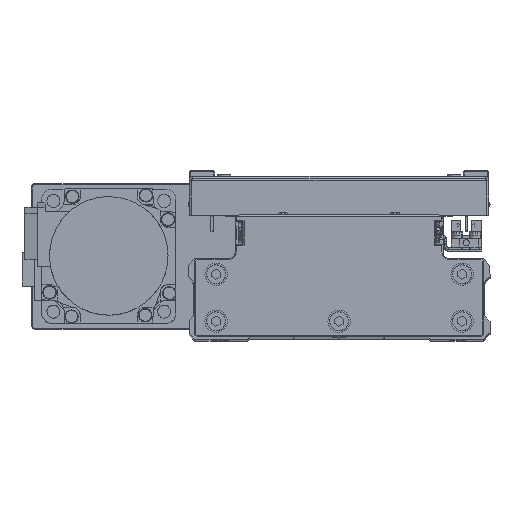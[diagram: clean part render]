
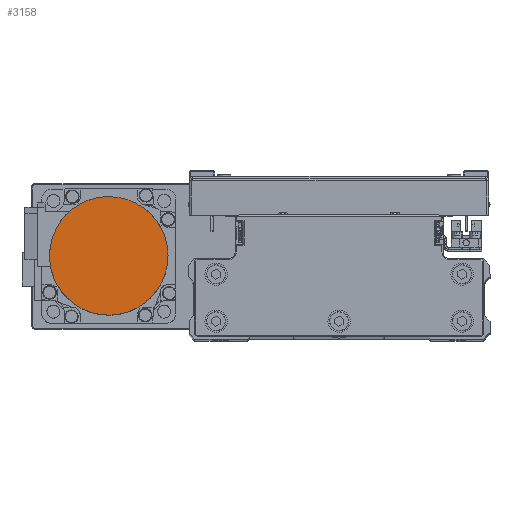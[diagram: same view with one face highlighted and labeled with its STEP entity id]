
A CAD part, top view. The second image highlights one B-rep face of the part: STEP entity #3158.
In plain terms, the highlighted planar face has unit normal (0, 0, 1) as drawn and (0, 0, -1) by its records, which use the part's own axes.
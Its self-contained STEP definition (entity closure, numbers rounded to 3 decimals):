
#622 = CARTESIAN_POINT ( 'NONE',  ( 21.07, 16.165, -109.7 ) ) ;
#829 = CARTESIAN_POINT ( 'NONE',  ( -8.539, 25.147, -109.7 ) ) ;
#1060 = CARTESIAN_POINT ( 'NONE',  ( -26.5, 0., -109.7 ) ) ;
#2698 = CARTESIAN_POINT ( 'NONE',  ( -26.329, -3.469, -109.7 ) ) ;
#2906 = CARTESIAN_POINT ( 'NONE',  ( -3.469, -26.329, -109.7 ) ) ;
#3127 = CARTESIAN_POINT ( 'NONE',  ( 23.819, -11.744, -109.7 ) ) ;
#3158 = ADVANCED_FACE ( 'NONE', ( #26294 ), #39755, .F. ) ;
#3933 = CARTESIAN_POINT ( 'NONE',  ( 25.147, 8.539, -109.7 ) ) ;
#4159 = CARTESIAN_POINT ( 'NONE',  ( -1.734, 26.5, -109.7 ) ) ;
#4367 = CARTESIAN_POINT ( 'NONE',  ( -25.652, 6.871, -109.7 ) ) ;
#6230 = CARTESIAN_POINT ( 'NONE',  ( -11.744, -23.819, -109.7 ) ) ;
#6433 = CARTESIAN_POINT ( 'NONE',  ( 19.965, -17.512, -109.7 ) ) ;
#7229 = CARTESIAN_POINT ( 'NONE',  ( 26.5, 1.734, -109.7 ) ) ;
#7465 = CARTESIAN_POINT ( 'NONE',  ( 6.871, 25.652, -109.7 ) ) ;
#7697 = CARTESIAN_POINT ( 'NONE',  ( -22.998, 13.28, -109.7 ) ) ;
#9494 = CARTESIAN_POINT ( 'NONE',  ( 0., 0., -109.7 ) ) ;
#9539 = CARTESIAN_POINT ( 'NONE',  ( -17.512, -19.965, -109.7 ) ) ;
#9766 = CARTESIAN_POINT ( 'NONE',  ( 13.28, -22.998, -109.7 ) ) ;
#10778 = CARTESIAN_POINT ( 'NONE',  ( 13.28, 22.998, -109.7 ) ) ;
#11007 = CARTESIAN_POINT ( 'NONE',  ( -17.512, 19.965, -109.7 ) ) ;
#12854 = CARTESIAN_POINT ( 'NONE',  ( -22.998, -13.28, -109.7 ) ) ;
#13080 = CARTESIAN_POINT ( 'NONE',  ( 6.871, -25.652, -109.7 ) ) ;
#13298 = CARTESIAN_POINT ( 'NONE',  ( 26.5, -1.734, -109.7 ) ) ;
#14110 = CARTESIAN_POINT ( 'NONE',  ( 19.965, 17.512, -109.7 ) ) ;
#14207 = EDGE_LOOP ( 'NONE', ( #23253, #38986 ) ) ;
#14315 = CARTESIAN_POINT ( 'NONE',  ( -11.744, 23.819, -109.7 ) ) ;
#15909 = AXIS2_PLACEMENT_3D ( 'NONE', #9494, #22999, #36459 ) ;
#16179 = CARTESIAN_POINT ( 'NONE',  ( -25.652, -6.871, -109.7 ) ) ;
#16377 = CARTESIAN_POINT ( 'NONE',  ( -1.734, -26.5, -109.7 ) ) ;
#16610 = CARTESIAN_POINT ( 'NONE',  ( 25.147, -8.539, -109.7 ) ) ;
#17430 = CARTESIAN_POINT ( 'NONE',  ( 23.819, 11.744, -109.7 ) ) ;
#17656 = CARTESIAN_POINT ( 'NONE',  ( -3.469, 26.329, -109.7 ) ) ;
#17860 = CARTESIAN_POINT ( 'NONE',  ( -26.329, 3.469, -109.7 ) ) ;
#18847 = VERTEX_POINT ( 'NONE', #23686 ) ;
#19494 = CARTESIAN_POINT ( 'NONE',  ( -26.5, 0., -109.7 ) ) ;
#19715 = CARTESIAN_POINT ( 'NONE',  ( -8.539, -25.147, -109.7 ) ) ;
#19918 = CARTESIAN_POINT ( 'NONE',  ( 21.07, -16.165, -109.7 ) ) ;
#20730 = CARTESIAN_POINT ( 'NONE',  ( 26.329, 3.469, -109.7 ) ) ;
#20803 = VERTEX_POINT ( 'NONE', #23941 ) ;
#20962 = CARTESIAN_POINT ( 'NONE',  ( 3.469, 26.329, -109.7 ) ) ;
#21183 = CARTESIAN_POINT ( 'NONE',  ( -23.819, 11.744, -109.7 ) ) ;
#22999 = DIRECTION ( 'NONE',  ( 0., 0., 1. ) ) ;
#23016 = B_SPLINE_CURVE_WITH_KNOTS ( 'NONE', 3,
 ( #37518, #7229, #20730, #34211, #3933, #17430, #30919, #622, #14110, #27601, #41052, #10778, #24283, #37749, #7465, #20962, #34430, #4159, #17656, #31131, #829, #14315, #27817, #41279, #11007, #24518, #37971, #7697, #21183, #34643, #4367, #17860, #31348, #1060 ),
 .UNSPECIFIED., .F., .F.,
 ( 4, 2, 2, 2, 2, 2, 2, 2, 2, 2, 2, 2, 2, 2, 2, 2, 4 ),
 ( 0., 0.062, 0.125, 0.187, 0.25, 0.312, 0.375, 0.437, 0.5, 0.562, 0.625, 0.687, 0.75, 0.813, 0.875, 0.938, 1. ),
 .UNSPECIFIED. ) ;
#23040 = CARTESIAN_POINT ( 'NONE',  ( -16.165, -21.07, -109.7 ) ) ;
#23253 = ORIENTED_EDGE ( 'NONE', *, *, #34003, .F. ) ;
#23270 = CARTESIAN_POINT ( 'NONE',  ( 16.165, -21.07, -109.7 ) ) ;
#23686 = CARTESIAN_POINT ( 'NONE',  ( 26.5, 0., -109.7 ) ) ;
#23941 = CARTESIAN_POINT ( 'NONE',  ( -26.5, 0., -109.7 ) ) ;
#24283 = CARTESIAN_POINT ( 'NONE',  ( 11.744, 23.819, -109.7 ) ) ;
#24518 = CARTESIAN_POINT ( 'NONE',  ( -19.965, 17.512, -109.7 ) ) ;
#26294 = FACE_OUTER_BOUND ( 'NONE', #14207, .T. ) ;
#26341 = CARTESIAN_POINT ( 'NONE',  ( -21.07, -16.165, -109.7 ) ) ;
#26377 = EDGE_CURVE ( 'NONE', #20803, #18847, #42437, .T. ) ;
#26567 = CARTESIAN_POINT ( 'NONE',  ( 8.539, -25.147, -109.7 ) ) ;
#26796 = CARTESIAN_POINT ( 'NONE',  ( 26.5, 0., -109.7 ) ) ;
#27601 = CARTESIAN_POINT ( 'NONE',  ( 17.512, 19.965, -109.7 ) ) ;
#27817 = CARTESIAN_POINT ( 'NONE',  ( -13.28, 22.998, -109.7 ) ) ;
#29672 = CARTESIAN_POINT ( 'NONE',  ( -25.147, -8.539, -109.7 ) ) ;
#29873 = CARTESIAN_POINT ( 'NONE',  ( 1.734, -26.5, -109.7 ) ) ;
#30104 = CARTESIAN_POINT ( 'NONE',  ( 25.652, -6.871, -109.7 ) ) ;
#30919 = CARTESIAN_POINT ( 'NONE',  ( 22.998, 13.28, -109.7 ) ) ;
#31131 = CARTESIAN_POINT ( 'NONE',  ( -6.871, 25.652, -109.7 ) ) ;
#31348 = CARTESIAN_POINT ( 'NONE',  ( -26.5, 1.734, -109.7 ) ) ;
#32975 = CARTESIAN_POINT ( 'NONE',  ( -26.5, -1.734, -109.7 ) ) ;
#33191 = CARTESIAN_POINT ( 'NONE',  ( -6.871, -25.652, -109.7 ) ) ;
#33395 = CARTESIAN_POINT ( 'NONE',  ( 22.998, -13.28, -109.7 ) ) ;
#34003 = EDGE_CURVE ( 'NONE', #18847, #20803, #23016, .T. ) ;
#34211 = CARTESIAN_POINT ( 'NONE',  ( 25.652, 6.871, -109.7 ) ) ;
#34430 = CARTESIAN_POINT ( 'NONE',  ( 1.734, 26.5, -109.7 ) ) ;
#34643 = CARTESIAN_POINT ( 'NONE',  ( -25.147, 8.539, -109.7 ) ) ;
#36459 = DIRECTION ( 'NONE',  ( 1., 0., 0. ) ) ;
#36503 = CARTESIAN_POINT ( 'NONE',  ( -13.28, -22.998, -109.7 ) ) ;
#36719 = CARTESIAN_POINT ( 'NONE',  ( 17.512, -19.965, -109.7 ) ) ;
#37518 = CARTESIAN_POINT ( 'NONE',  ( 26.5, 0., -109.7 ) ) ;
#37749 = CARTESIAN_POINT ( 'NONE',  ( 8.539, 25.147, -109.7 ) ) ;
#37971 = CARTESIAN_POINT ( 'NONE',  ( -21.07, 16.165, -109.7 ) ) ;
#38986 = ORIENTED_EDGE ( 'NONE', *, *, #26377, .F. ) ;
#39755 = PLANE ( 'NONE',  #15909 ) ;
#39808 = CARTESIAN_POINT ( 'NONE',  ( -19.965, -17.512, -109.7 ) ) ;
#40030 = CARTESIAN_POINT ( 'NONE',  ( 11.744, -23.819, -109.7 ) ) ;
#41052 = CARTESIAN_POINT ( 'NONE',  ( 16.165, 21.07, -109.7 ) ) ;
#41279 = CARTESIAN_POINT ( 'NONE',  ( -16.165, 21.07, -109.7 ) ) ;
#42437 = B_SPLINE_CURVE_WITH_KNOTS ( 'NONE', 3,
 ( #19494, #32975, #2698, #16179, #29672, #43124, #12854, #26341, #39808, #9539, #23040, #36503, #6230, #19715, #33191, #2906, #16377, #29873, #43341, #13080, #26567, #40030, #9766, #23270, #36719, #6433, #19918, #33395, #3127, #16610, #30104, #43567, #13298, #26796 ),
 .UNSPECIFIED., .F., .F.,
 ( 4, 2, 2, 2, 2, 2, 2, 2, 2, 2, 2, 2, 2, 2, 2, 2, 4 ),
 ( 0., 0.063, 0.125, 0.188, 0.25, 0.312, 0.375, 0.437, 0.5, 0.562, 0.625, 0.687, 0.75, 0.813, 0.875, 0.938, 1. ),
 .UNSPECIFIED. ) ;
#43124 = CARTESIAN_POINT ( 'NONE',  ( -23.819, -11.744, -109.7 ) ) ;
#43341 = CARTESIAN_POINT ( 'NONE',  ( 3.469, -26.329, -109.7 ) ) ;
#43567 = CARTESIAN_POINT ( 'NONE',  ( 26.329, -3.469, -109.7 ) ) ;
